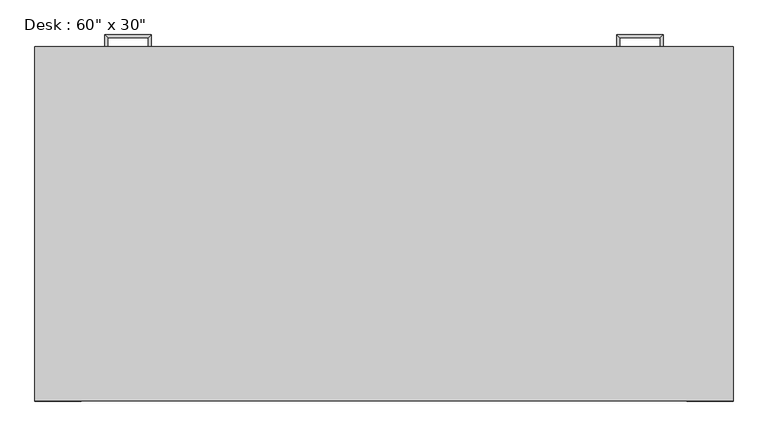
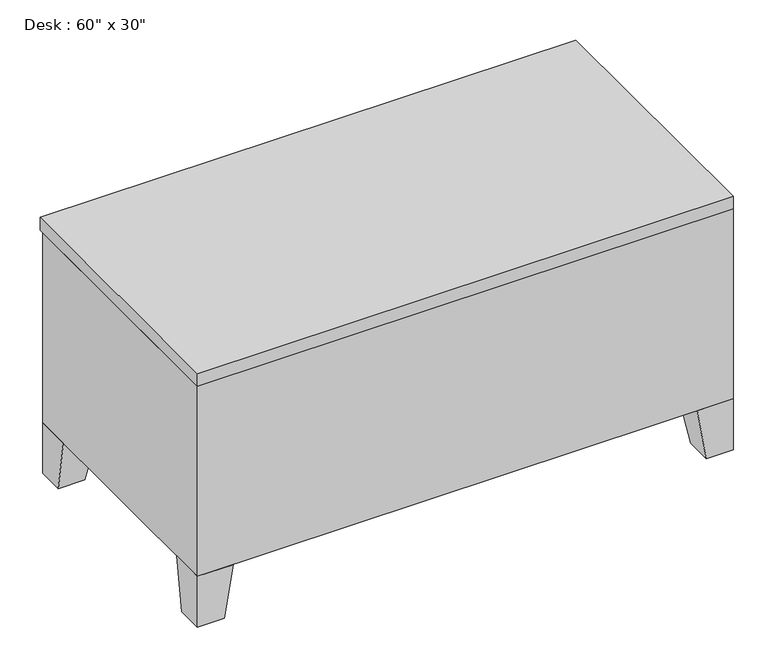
"""IFC4 building model written with IfcOpenShell, lengths in millimetres: furniture geometry."""

from ifc_helpers import new_model, si_unit, frame, origin, place, context, project, spatial, polyline, outline, extrude, faceted_brep, source, transform, mapped, element, save


def furniture_e30ff25b(model_context):
    return source(origin(), model_context, "Body", "SolidModel", [
        extrude(outline(polyline([(19.05, 0.0), (19.05, 12.7), (387.35, 12.7), (387.35, 0.0), (19.05, 0.0)])), frame((0.0, 0.0, 603.25), z_axis=(0.0, 0.0, 1.0), x_axis=(1.0, 0.0, 0.0)), (0.0, 0.0, 1.0), 101.6),
        extrude(outline(polyline([(19.05, 0.0), (19.05, 12.7), (387.35, 12.7), (387.35, 0.0), (19.05, 0.0)])), frame((0.0, 0.0, 171.45), z_axis=(0.0, 0.0, 1.0), x_axis=(1.0, 0.0, 0.0)), (0.0, 0.0, 1.0), 412.75),
        extrude(outline(polyline([(1136.65, 0.0), (1136.65, 12.7), (1504.95, 12.7), (1504.95, 0.0), (1136.65, 0.0)])), frame((0.0, 0.0, 603.25), z_axis=(0.0, 0.0, 1.0), x_axis=(1.0, 0.0, 0.0)), (0.0, 0.0, 1.0), 101.6),
        extrude(outline(polyline([(1136.65, 0.0), (1136.65, 12.7), (1504.95, 12.7), (1504.95, 0.0), (1136.65, 0.0)])), frame((0.0, 0.0, 171.45), z_axis=(0.0, 0.0, 1.0), x_axis=(1.0, 0.0, 0.0)), (0.0, 0.0, 1.0), 171.45),
        extrude(outline(polyline([(1136.65, 0.0), (1136.65, 12.7), (1504.95, 12.7), (1504.95, 0.0), (1136.65, 0.0)])), frame((0.0, 0.0, 482.6), z_axis=(0.0, 0.0, 1.0), x_axis=(1.0, 0.0, 0.0)), (0.0, 0.0, 1.0), 101.6),
        extrude(outline(polyline([(1136.65, 0.0), (1136.65, 12.7), (1504.95, 12.7), (1504.95, 0.0), (1136.65, 0.0)])), frame((0.0, 0.0, 361.95), z_axis=(0.0, 0.0, 1.0), x_axis=(1.0, 0.0, 0.0)), (0.0, 0.0, 1.0), 101.6),
        faceted_brep([(101.6, 0.0, 152.4), (0.0, 0.0, 152.4), (0.0, -101.6, 152.4), (101.6, -101.6, 152.4), (76.2, 0.0, 0.0), (76.2, -76.2, 0.0), (0.0, -76.2, 0.0), (0.0, 0.0, 0.0)], [[[0, 1, 2, 3]], [[4, 5, 6, 7]], [[4, 0, 3, 5]], [[5, 3, 2, 6]], [[6, 2, 1, 7]], [[7, 1, 0, 4]]]),
        faceted_brep([(101.6, -762.0, 152.4), (101.6, -660.4, 152.4), (0.0, -660.4, 152.4), (0.0, -762.0, 152.4), (76.2, -762.0, 0.0), (0.0, -762.0, 0.0), (0.0, -685.8, 0.0), (76.2, -685.8, 0.0)], [[[0, 1, 2, 3]], [[4, 5, 6, 7]], [[4, 0, 3, 5]], [[5, 3, 2, 6]], [[6, 2, 1, 7]], [[7, 1, 0, 4]]]),
        faceted_brep([(1422.4, -762.0, 152.4), (1524.0, -762.0, 152.4), (1524.0, -660.4, 152.4), (1422.4, -660.4, 152.4), (1447.8, -762.0, 0.0), (1447.8, -685.8, 0.0), (1524.0, -685.8, 0.0), (1524.0, -762.0, 0.0)], [[[0, 1, 2, 3]], [[4, 5, 6, 7]], [[4, 0, 3, 5]], [[5, 3, 2, 6]], [[6, 2, 1, 7]], [[7, 1, 0, 4]]]),
        faceted_brep([(1422.4, 0.0, 152.4), (1422.4, -101.6, 152.4), (1524.0, -101.6, 152.4), (1524.0, 0.0, 152.4), (1447.8, 0.0, 0.0), (1524.0, 0.0, 0.0), (1524.0, -76.2, 0.0), (1447.8, -76.2, 0.0)], [[[0, 1, 2, 3]], [[4, 5, 6, 7]], [[4, 0, 3, 5]], [[5, 3, 2, 6]], [[6, 2, 1, 7]], [[7, 1, 0, 4]]]),
        extrude(outline(polyline([(0.0, 12.7), (1524.0, 12.7), (1524.0, -762.0), (0.0, -762.0), (0.0, 12.7)])), frame((0.0, 0.0, 723.9), z_axis=(0.0, 0.0, 1.0), x_axis=(1.0, 0.0, 0.0)), (0.0, 0.0, 1.0), 38.1),
        extrude(outline(polyline([(1117.6, 0.0), (1524.0, 0.0), (1524.0, -762.0), (0.0, -762.0), (0.0, 0.0), (406.4, 0.0), (406.4, -635.0), (1117.6, -635.0), (1117.6, 0.0)])), frame((0.0, 0.0, 152.4), z_axis=(0.0, 0.0, 1.0), x_axis=(1.0, 0.0, 0.0)), (0.0, 0.0, 1.0), 571.5),
        faceted_brep([(158.75, 12.7, 546.1), (152.4, 12.7, 546.1), (152.4, 12.7, 533.4), (158.75, 12.7, 533.4), (158.75, 31.75, 533.4), (158.75, 31.75, 546.1), (152.4, 38.1, 533.4), (152.4, 38.1, 546.1), (247.65, 31.75, 533.4), (247.65, 31.75, 546.1), (254.0, 38.1, 533.4), (254.0, 38.1, 546.1), (247.65, 12.7, 546.1), (247.65, 12.7, 533.4), (254.0, 12.7, 533.4), (254.0, 12.7, 546.1)], [[[0, 1, 2, 3]], [[3, 4, 5, 0]], [[2, 6, 4, 3]], [[1, 7, 6, 2]], [[0, 5, 7, 1]], [[4, 8, 9, 5]], [[6, 10, 8, 4]], [[7, 11, 10, 6]], [[5, 9, 11, 7]], [[12, 13, 14, 15]], [[8, 13, 12, 9]], [[10, 14, 13, 8]], [[11, 15, 14, 10]], [[9, 12, 15, 11]]]),
        faceted_brep([(158.75, 12.7, 666.75), (152.4, 12.7, 666.75), (152.4, 12.7, 654.05), (158.75, 12.7, 654.05), (158.75, 31.75, 654.05), (158.75, 31.75, 666.75), (152.4, 38.1, 654.05), (152.4, 38.1, 666.75), (247.65, 31.75, 654.05), (247.65, 31.75, 666.75), (254.0, 38.1, 654.05), (254.0, 38.1, 666.75), (247.65, 12.7, 666.75), (247.65, 12.7, 654.05), (254.0, 12.7, 654.05), (254.0, 12.7, 666.75)], [[[0, 1, 2, 3]], [[3, 4, 5, 0]], [[2, 6, 4, 3]], [[1, 7, 6, 2]], [[0, 5, 7, 1]], [[4, 8, 9, 5]], [[6, 10, 8, 4]], [[7, 11, 10, 6]], [[5, 9, 11, 7]], [[12, 13, 14, 15]], [[8, 13, 12, 9]], [[10, 14, 13, 8]], [[11, 15, 14, 10]], [[9, 12, 15, 11]]]),
        faceted_brep([(1365.25, 12.7, 304.8), (1365.25, 12.7, 292.1), (1371.6, 12.7, 292.1), (1371.6, 12.7, 304.8), (1371.6, 38.1, 304.8), (1365.25, 31.75, 304.8), (1371.6, 38.1, 292.1), (1365.25, 31.75, 292.1), (1270.0, 38.1, 304.8), (1276.35, 31.75, 304.8), (1270.0, 38.1, 292.1), (1276.35, 31.75, 292.1), (1276.35, 12.7, 304.8), (1270.0, 12.7, 304.8), (1270.0, 12.7, 292.1), (1276.35, 12.7, 292.1)], [[[0, 1, 2, 3]], [[3, 4, 5, 0]], [[2, 6, 4, 3]], [[1, 7, 6, 2]], [[0, 5, 7, 1]], [[4, 8, 9, 5]], [[6, 10, 8, 4]], [[7, 11, 10, 6]], [[5, 9, 11, 7]], [[12, 13, 14, 15]], [[8, 13, 12, 9]], [[10, 14, 13, 8]], [[11, 15, 14, 10]], [[9, 12, 15, 11]]]),
        faceted_brep([(1365.25, 12.7, 425.45), (1365.25, 12.7, 412.75), (1371.6, 12.7, 412.75), (1371.6, 12.7, 425.45), (1371.6, 38.1, 425.45), (1365.25, 31.75, 425.45), (1371.6, 38.1, 412.75), (1365.25, 31.75, 412.75), (1270.0, 38.1, 425.45), (1276.35, 31.75, 425.45), (1270.0, 38.1, 412.75), (1276.35, 31.75, 412.75), (1276.35, 12.7, 425.45), (1270.0, 12.7, 425.45), (1270.0, 12.7, 412.75), (1276.35, 12.7, 412.75)], [[[0, 1, 2, 3]], [[3, 4, 5, 0]], [[2, 6, 4, 3]], [[1, 7, 6, 2]], [[0, 5, 7, 1]], [[4, 8, 9, 5]], [[6, 10, 8, 4]], [[7, 11, 10, 6]], [[5, 9, 11, 7]], [[12, 13, 14, 15]], [[8, 13, 12, 9]], [[10, 14, 13, 8]], [[11, 15, 14, 10]], [[9, 12, 15, 11]]]),
        faceted_brep([(1365.25, 12.7, 546.1), (1365.25, 12.7, 533.4), (1371.6, 12.7, 533.4), (1371.6, 12.7, 546.1), (1371.6, 38.1, 546.1), (1365.25, 31.75, 546.1), (1371.6, 38.1, 533.4), (1365.25, 31.75, 533.4), (1270.0, 38.1, 546.1), (1276.35, 31.75, 546.1), (1270.0, 38.1, 533.4), (1276.35, 31.75, 533.4), (1276.35, 12.7, 546.1), (1270.0, 12.7, 546.1), (1270.0, 12.7, 533.4), (1276.35, 12.7, 533.4)], [[[0, 1, 2, 3]], [[3, 4, 5, 0]], [[2, 6, 4, 3]], [[1, 7, 6, 2]], [[0, 5, 7, 1]], [[4, 8, 9, 5]], [[6, 10, 8, 4]], [[7, 11, 10, 6]], [[5, 9, 11, 7]], [[12, 13, 14, 15]], [[8, 13, 12, 9]], [[10, 14, 13, 8]], [[11, 15, 14, 10]], [[9, 12, 15, 11]]]),
        faceted_brep([(1365.25, 12.7, 666.75), (1365.25, 12.7, 654.05), (1371.6, 12.7, 654.05), (1371.6, 12.7, 666.75), (1371.6, 38.1, 666.75), (1365.25, 31.75, 666.75), (1371.6, 38.1, 654.05), (1365.25, 31.75, 654.05), (1270.0, 38.1, 666.75), (1276.35, 31.75, 666.75), (1270.0, 38.1, 654.05), (1276.35, 31.75, 654.05), (1276.35, 12.7, 666.75), (1270.0, 12.7, 666.75), (1270.0, 12.7, 654.05), (1276.35, 12.7, 654.05)], [[[0, 1, 2, 3]], [[3, 4, 5, 0]], [[2, 6, 4, 3]], [[1, 7, 6, 2]], [[0, 5, 7, 1]], [[4, 8, 9, 5]], [[6, 10, 8, 4]], [[7, 11, 10, 6]], [[5, 9, 11, 7]], [[12, 13, 14, 15]], [[8, 13, 12, 9]], [[10, 14, 13, 8]], [[11, 15, 14, 10]], [[9, 12, 15, 11]]]),
    ])


if __name__ == "__main__":
    model = new_model("IFC4")
    model_context = context("Model", 3, world=origin())
    ifc_project = project(units=[si_unit("LENGTHUNIT", "METRE", prefix="MILLI")], contexts=[model_context])
    site = spatial("IfcSite", under=ifc_project)
    building = spatial("IfcBuilding", under=site)
    placement = place(None, origin())
    furniture_shape = furniture_e30ff25b(model_context)
    element("IfcFurniture", 1, ObjectType="Desk : 60\" x 30\"", at=placement, inside=building, context=model_context, shape_type="MappedRepresentation", body=[
        mapped(furniture_shape, transform((0.0, 0.0, 0.0), x_axis=(1.0, 0.0, 0.0), y_axis=(0.0, 1.0, 0.0), z_axis=(0.0, 0.0, 1.0))),
    ])
    save(model, "model.ifc")
